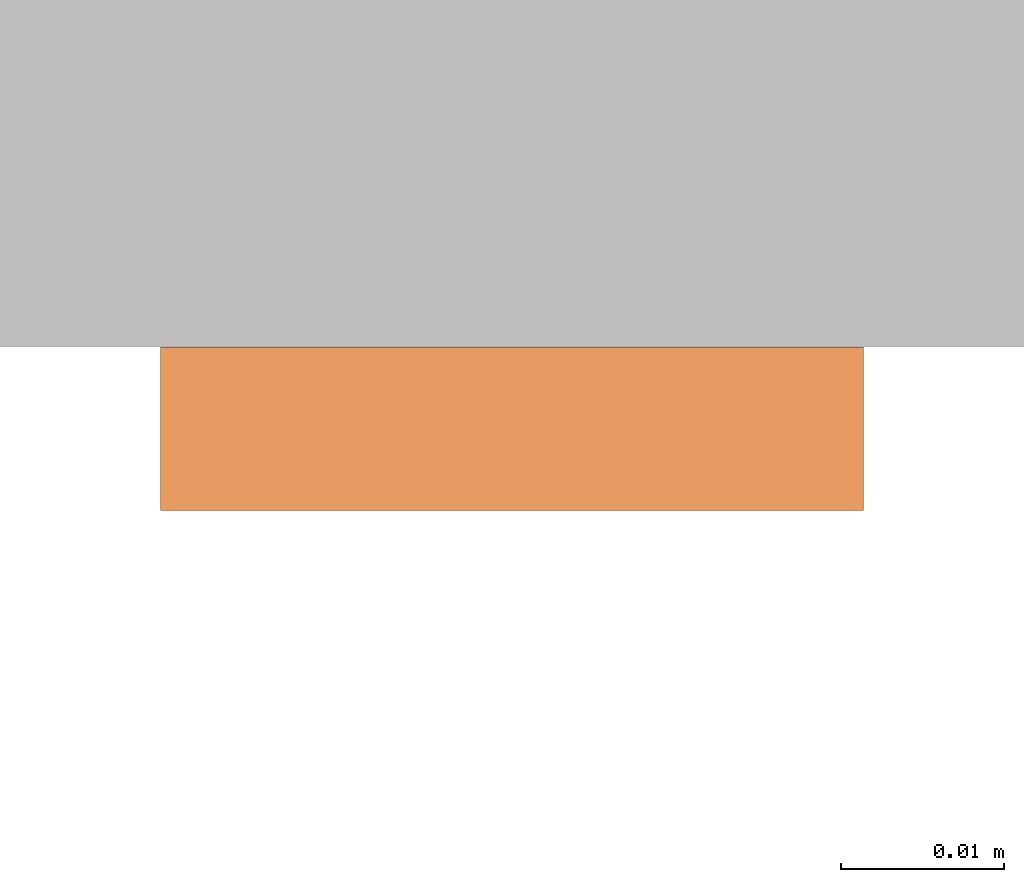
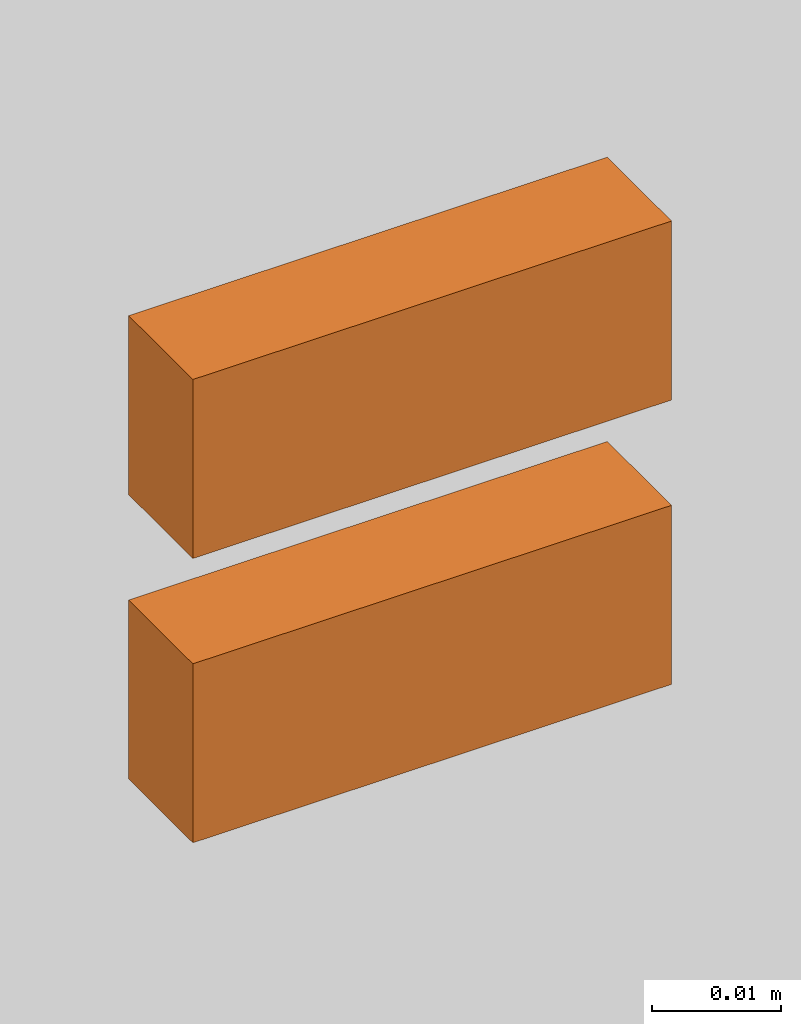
# One storey, part 84 of 197: 1 proxy.
"""IFC2X3 building model written with IfcOpenShell, lengths in metres."""

from ifc_helpers import new_model, entity, si_unit, converted_unit, direction, frame, frame_2d, origin, origin_2d_with_axis, place, context, subcontext, project, spatial, rectangle, extrude, source, transform, mapped, material, type_object, type_shapes, element, save


model = new_model("IFC2X3")

# Units and contexts
model_context = context("Model", 3, precision=1e-05, world=origin(), true_north=direction((6.123031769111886e-17, 1.0)))
body_context = subcontext(model_context, "Body", "Model", "MODEL_VIEW")
ifc_project = project(units=[si_unit("LENGTHUNIT", "METRE"), converted_unit("PLANEANGLEUNIT", "DEGREE", entity("IfcPlaneAngleMeasure", 0.017453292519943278), si_unit("PLANEANGLEUNIT", "RADIAN"), dimensions=[0, 0, 0, 0, 0, 0, 0]), si_unit("AREAUNIT", "SQUARE_METRE")], contexts=[model_context])

# Site, building, storey
site_placement = place(None, origin())
site = spatial("IfcSite", under=ifc_project, at=site_placement, Name="Default", CompositionType="ELEMENT")
building_placement = place(site_placement, origin())
building = spatial("IfcBuilding", under=site, at=building_placement, CompositionType="ELEMENT")
storey_placement = place(building_placement, origin())
storey = spatial("IfcBuildingStorey", under=building, at=storey_placement, Name="Niveau 0", CompositionType="ELEMENT", Elevation=0.0)

# Proxy
ifc_material = material(Name="BETCE-CONTACT DE PORTE-BLANC")
building_element_proxy_type = type_object("IfcBuildingElementProxyType", Name="Contact porte:Contact de porte", PredefinedType="NOTDEFINED", material=ifc_material)
shared_shape = source(origin(), body_context, "Body", "SweptSolid", [
    extrude(rectangle(XDim=0.017, YDim=0.04300000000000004, at=frame_2d((2.6020852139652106e-18, 0.0), x_axis=(1.0, 0.0))), frame((0.0, -0.013500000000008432, 0.0), z_axis=(0.0, 0.0, 1.0), x_axis=(0.0, 1.0, 0.0)), (0.0, 0.0, 1.0), 0.01),
    extrude(rectangle(XDim=0.04300000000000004, YDim=0.017, at=origin_2d_with_axis()), frame((0.0, 0.013499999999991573, 0.0), z_axis=(0.0, 0.0, 1.0), x_axis=(-1.0, 0.0, 0.0)), (0.0, 0.0, 1.0), 0.01),
])
type_shapes(building_element_proxy_type, [shared_shape])
proxy_placement = place(storey_placement, frame((-531.0455951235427, -41.558644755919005, 1.2192000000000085), z_axis=(0.0, -1.0, 0.0), x_axis=(1.0, 0.0, 0.0)))
element("IfcBuildingElementProxy", 1, at=proxy_placement, inside=storey, type_object=building_element_proxy_type, material=ifc_material, Name="Contact porte:Contact de porte", ObjectType="Contact porte:Contact de porte", context=body_context, shape_type="MappedRepresentation", body=[
    mapped(shared_shape, transform((0.0, 0.0, 0.0), scale=1.0)),
])

save(model, "model.ifc")
